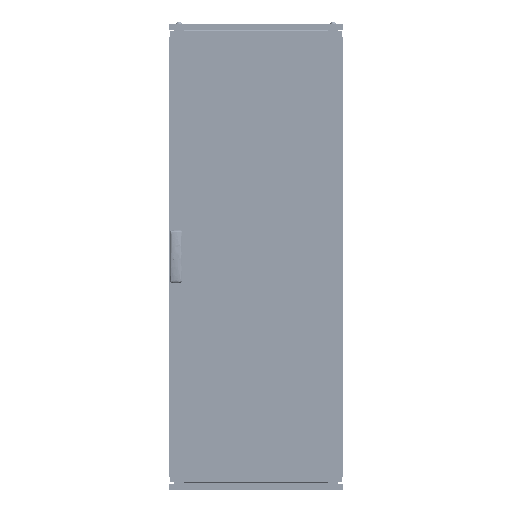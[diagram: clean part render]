
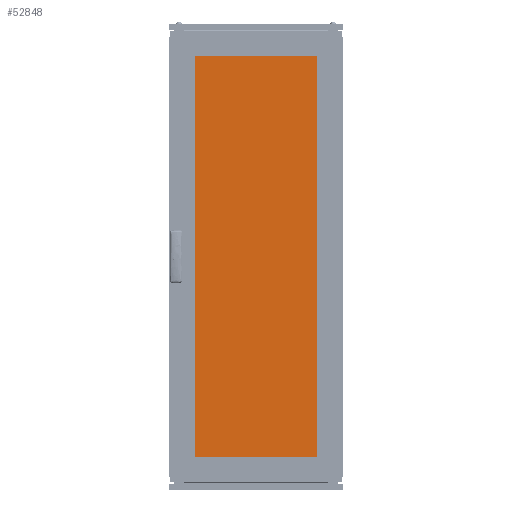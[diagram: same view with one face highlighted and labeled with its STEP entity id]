
A CAD part, top view. The second image highlights one B-rep face of the part: STEP entity #52848.
In plain terms, the highlighted planar face has unit normal (0, 0, 1).
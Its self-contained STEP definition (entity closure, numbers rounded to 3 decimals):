
#12394 = LINE ( 'NONE', #44811, #83372 ) ;
#12873 = DIRECTION ( 'NONE',  ( -1., 0., 0. ) ) ;
#14088 = EDGE_CURVE ( 'NONE', #32310, #181869, #66523, .T. ) ;
#16925 = CARTESIAN_POINT ( 'NONE',  ( -230., 710., 5. ) ) ;
#17363 = CARTESIAN_POINT ( 'NONE',  ( -230., -710., 5. ) ) ;
#24865 = EDGE_CURVE ( 'NONE', #130321, #32310, #44014, .T. ) ;
#32310 = VERTEX_POINT ( 'NONE', #77238 ) ;
#36313 = ORIENTED_EDGE ( 'NONE', *, *, #24865, .T. ) ;
#44014 = LINE ( 'NONE', #138211, #60805 ) ;
#44811 = CARTESIAN_POINT ( 'NONE',  ( 230., -710., 5. ) ) ;
#52848 = ADVANCED_FACE ( 'NONE', ( #94518 ), #123850, .F. ) ;
#60512 = DIRECTION ( 'NONE',  ( 0., 1., 0. ) ) ;
#60805 = VECTOR ( 'NONE', #171668, 1000. ) ;
#66523 = LINE ( 'NONE', #17363, #142987 ) ;
#77238 = CARTESIAN_POINT ( 'NONE',  ( -230., -710., 5. ) ) ;
#83372 = VECTOR ( 'NONE', #60512, 1000. ) ;
#88437 = EDGE_CURVE ( 'NONE', #181869, #192995, #12394, .T. ) ;
#90597 = ORIENTED_EDGE ( 'NONE', *, *, #133490, .T. ) ;
#93857 = DIRECTION ( 'NONE',  ( 1., 0., 0. ) ) ;
#94518 = FACE_OUTER_BOUND ( 'NONE', #167419, .T. ) ;
#95535 = DIRECTION ( 'NONE',  ( 0., 0., -1. ) ) ;
#120823 = CARTESIAN_POINT ( 'NONE',  ( 230., 710., 5. ) ) ;
#121699 = CARTESIAN_POINT ( 'NONE',  ( -230., 710., 5. ) ) ;
#123850 = PLANE ( 'NONE',  #149092 ) ;
#126794 = CARTESIAN_POINT ( 'NONE',  ( 230., -710., 5. ) ) ;
#130321 = VERTEX_POINT ( 'NONE', #16925 ) ;
#131344 = ORIENTED_EDGE ( 'NONE', *, *, #88437, .T. ) ;
#133490 = EDGE_CURVE ( 'NONE', #192995, #130321, #154147, .T. ) ;
#138211 = CARTESIAN_POINT ( 'NONE',  ( -230., -710., 5. ) ) ;
#139553 = CARTESIAN_POINT ( 'NONE',  ( 0., 0., 5. ) ) ;
#142987 = VECTOR ( 'NONE', #93857, 1000. ) ;
#149092 = AXIS2_PLACEMENT_3D ( 'NONE', #139553, #95535, #203419 ) ;
#154147 = LINE ( 'NONE', #121699, #159237 ) ;
#159237 = VECTOR ( 'NONE', #12873, 1000. ) ;
#167419 = EDGE_LOOP ( 'NONE', ( #131344, #90597, #36313, #199063 ) ) ;
#171668 = DIRECTION ( 'NONE',  ( 0., -1., 0. ) ) ;
#181869 = VERTEX_POINT ( 'NONE', #126794 ) ;
#192995 = VERTEX_POINT ( 'NONE', #120823 ) ;
#199063 = ORIENTED_EDGE ( 'NONE', *, *, #14088, .T. ) ;
#203419 = DIRECTION ( 'NONE',  ( -1., 0., 0. ) ) ;
